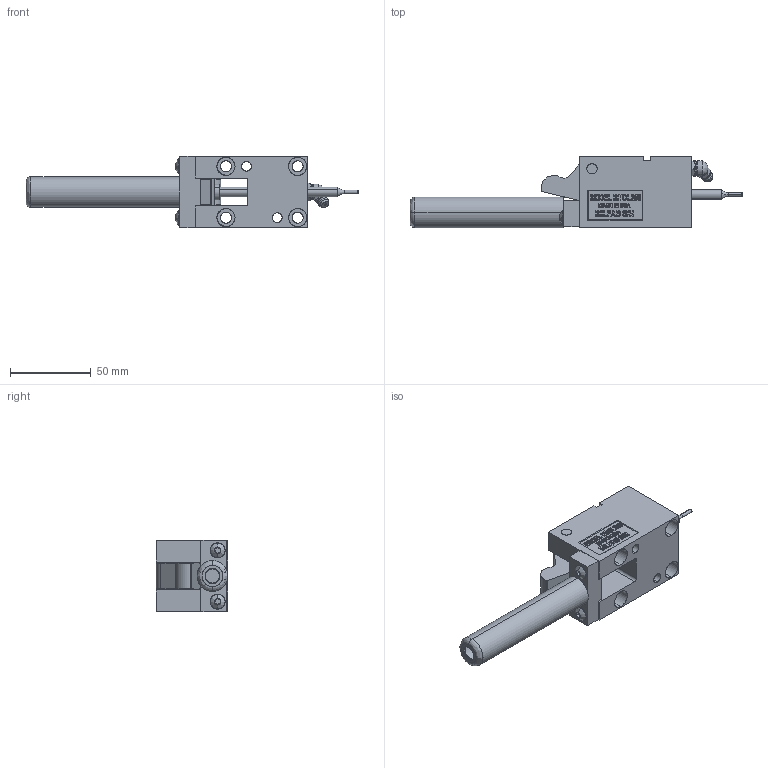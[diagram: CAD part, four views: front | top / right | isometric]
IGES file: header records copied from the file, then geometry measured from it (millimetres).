
Start section: SolidWorks IGES file using analytic representation for surfaces
Global section: file name: Y:\METRIC With OFFSETRIGGER\TOPMOUNT\MTOL25045\CLOSED\MTOL25045-C.IGS; native system: SolidWorks 2006 by SolidWorks Corporation; preprocessor: SolidWorks 2006 by SolidWorks Corporation; author: Jim; date: 090120.173357; units: inch
Bounding box: 205.59 x 44.45 x 44.45 mm (x, y, z)
Surface area: 47844.5 mm2 (no closed solid volume)
Topology: 0 solids, 0 shells, 602 faces, 7316 edges, 7312 vertices
Faces by surface type: bspline 482, revolution 120
